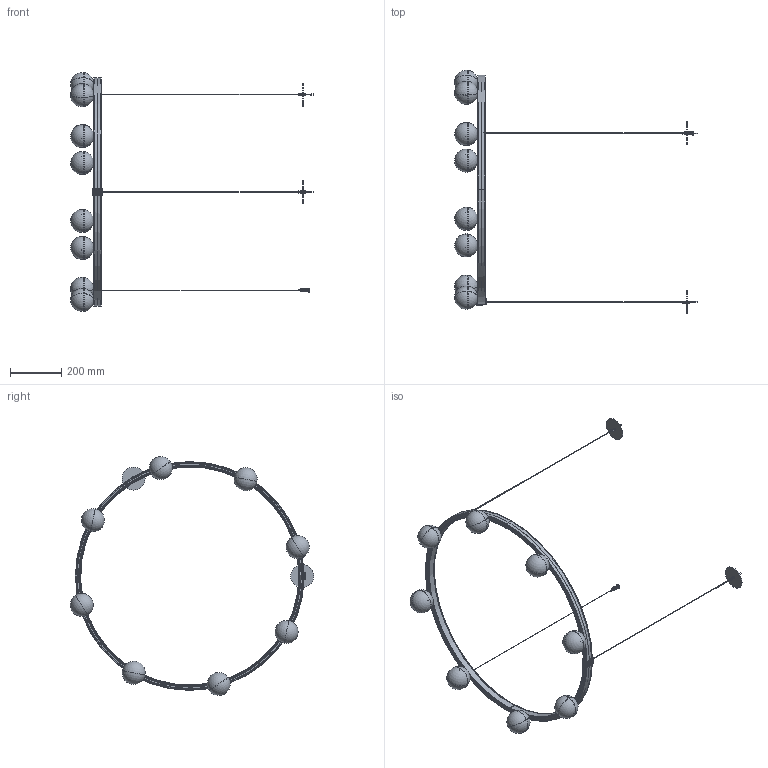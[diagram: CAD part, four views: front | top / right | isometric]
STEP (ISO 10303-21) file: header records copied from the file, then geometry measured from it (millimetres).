
FILE_DESCRIPTION (( 'STEP AP214' ), '1' );
FILE_NAME ('PLANET Ø900.STEP', '2024-05-29T07:43:22', ( '' ), ( '' ), 'SwSTEP 2.0', 'SolidWorks 2024', '' );
FILE_SCHEMA (( 'AUTOMOTIVE_DESIGN' ));
Length unit declared in the file: millimetre
Products named in the file (1): PLANET Ø900
Bounding box: 951.43 x 952.82 x 935.24 mm (x, y, z)
Volume: 1150362 mm3; surface area: 1185240.2 mm2
Topology: 17 solids, 19 shells, 1610 faces, 3998 edges, 2436 vertices
Faces by surface type: plane 683, cone 361, cylinder 321, torus 133, sphere 80, bspline 32
Entity records: 61236 total; most frequent: CARTESIAN_POINT 23817, DIRECTION 7856, ORIENTED_EDGE 7836, EDGE_CURVE 3918, AXIS2_PLACEMENT_3D 2940, VERTEX_POINT 2388, VECTOR 1976, LINE 1976
